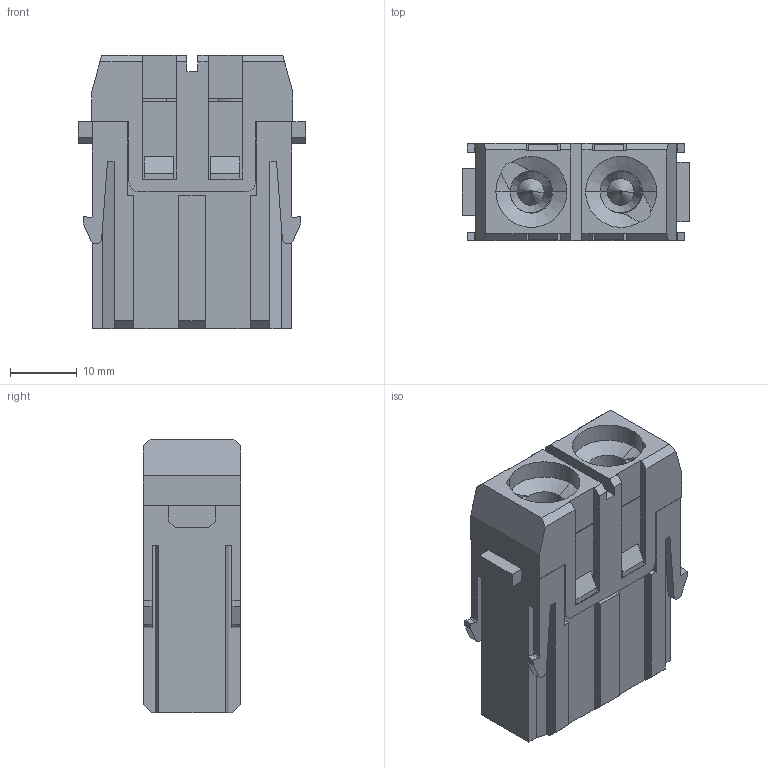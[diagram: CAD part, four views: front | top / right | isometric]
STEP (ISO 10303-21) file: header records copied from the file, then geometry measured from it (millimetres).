
FILE_DESCRIPTION (( 'STEP AP203' ), '1' );
FILE_NAME ('366454_HMK-002.1-M.STEP', '2025-09-19T13:48:43', ( '' ), ( '' ), 'SwSTEP 2.0', 'SolidWorks 2018', '' );
FILE_SCHEMA (( 'CONFIG_CONTROL_DESIGN' ));
Length unit declared in the file: millimetre
Products named in the file (1): 366454_HMK-002.1-M
Bounding box: 34.1 x 14.59 x 41.1 mm (x, y, z)
Volume: 11333.5 mm3; surface area: 9926 mm2
Topology: 1 solids, 1 shells, 371 faces, 1080 edges, 706 vertices
Faces by surface type: plane 270, cylinder 64, bspline 19, cone 14, torus 4
Entity records: 12500 total; most frequent: CARTESIAN_POINT 2857, ORIENTED_EDGE 2160, DIRECTION 1797, EDGE_CURVE 1080, VECTOR 761, LINE 761, VERTEX_POINT 706, AXIS2_PLACEMENT_3D 518
